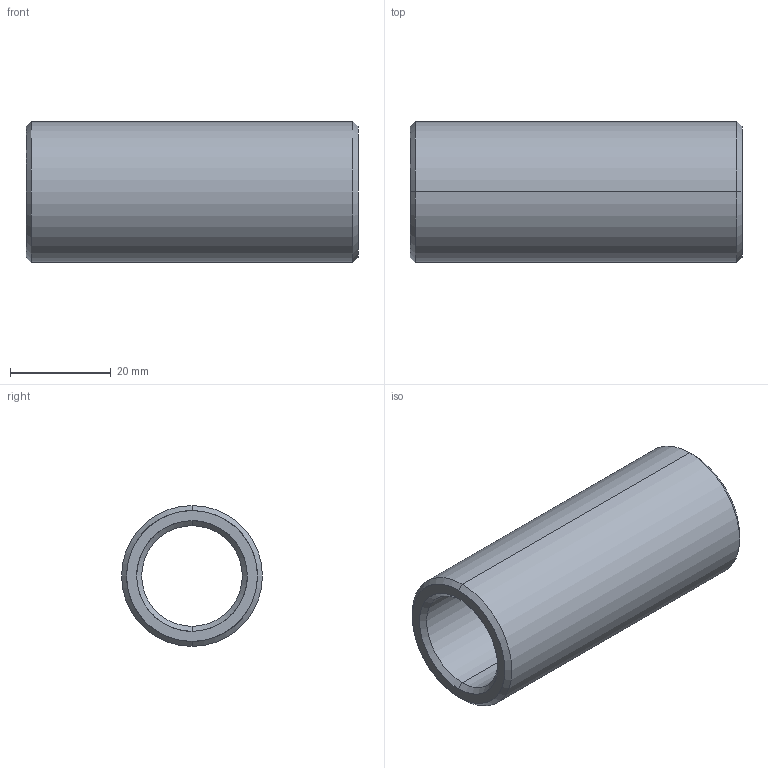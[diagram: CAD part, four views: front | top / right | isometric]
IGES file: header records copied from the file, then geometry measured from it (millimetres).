
Start section: START RECORD GO HERE.
Global section: file name: 352-20X66.igs; native system: DASSAULT SYSTEMES CATIA V5 R20 - www.3ds.com; preprocessor: CATIA Version 5 Release 20 ; author: Utente; organization: NB04-ASUS; date: 20210412.172034; units: millimetre
Bounding box: 66 x 28 x 28 mm (x, y, z)
Surface area: 10388.1 mm2 (no closed solid volume)
Topology: 0 solids, 0 shells, 14 faces, 88 edges, 88 vertices
Faces by surface type: revolution 12, plane 2
